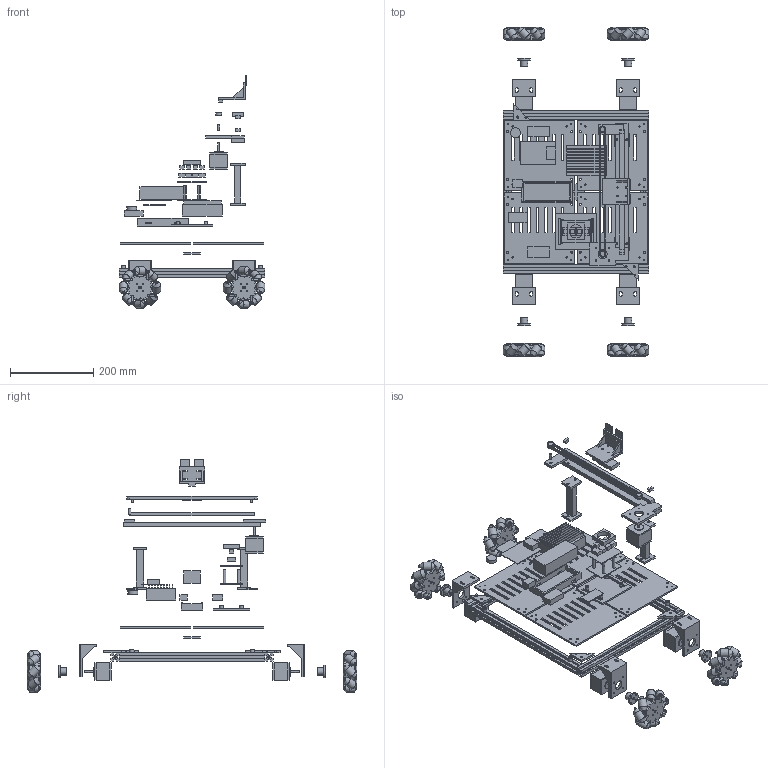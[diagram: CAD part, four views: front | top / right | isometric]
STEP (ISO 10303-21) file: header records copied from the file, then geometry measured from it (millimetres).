
FILE_DESCRIPTION(('Open CASCADE Model'),'2;1');
FILE_NAME('Open CASCADE Shape Model','2026-09-04T19:26:08',('Author'),( 'Open CASCADE'),'Open CASCADE STEP processor 7.9','Open CASCADE 7.9' ,'Unknown');
FILE_SCHEMA(('AUTOMOTIVE_DESIGN { 1 0 10303 214 1 1 1 1 }'));
Length unit declared in the file: millimetre
Products named in the file (251): Mecanum_presence_rover_CONCEPT_exploded; 2020_side_-1; 2020_cross_-1; 2020_side_1; 2020_cross_1; rear_right_motor; motor_laminations; front_flange; rear_flange; 5mm_D_shaft; rear_right_mount; rear_right_hub_interface_TBD; rear_right_mecanum; wheel_core; wheel_side_plate; free_roller_1; roller_axle_1; roller_support_1_-1; roller_support_1_1; free_roller_2; roller_axle_2; roller_support_2_-1; roller_support_2_1; free_roller_3; roller_axle_3; roller_support_3_-1; roller_support_3_1; free_roller_4; roller_axle_4; roller_support_4_-1; roller_support_4_1; free_roller_5; roller_axle_5; roller_support_5_-1; roller_support_5_1; free_roller_6; roller_axle_6; roller_support_6_-1; roller_support_6_1; free_roller_7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
Assembly tree (250 placements, depth 3):
  Mecanum_presence_rover_CONCEPT_exploded
    2020_side_-1
    2020_cross_-1
    2020_side_1
    2020_cross_1
    rear_right_motor
      motor_laminations
      front_flange
      rear_flange
      5mm_D_shaft
    rear_right_mount
    rear_right_hub_interface_TBD
    rear_right_mecanum
      wheel_core
      wheel_side_plate
      wheel_side_plate
      free_roller_1
      roller_axle_1
      roller_support_1_-1
      roller_support_1_1
      free_roller_2
      roller_axle_2
      roller_support_2_-1
      roller_support_2_1
      free_roller_3
      roller_axle_3
      roller_support_3_-1
      roller_support_3_1
      free_roller_4
      roller_axle_4
      roller_support_4_-1
      roller_support_4_1
      free_roller_5
      roller_axle_5
      roller_support_5_-1
      roller_support_5_1
      free_roller_6
      roller_axle_6
      roller_support_6_-1
      roller_support_6_1
      free_roller_7
      roller_axle_7
      roller_support_7_-1
      roller_support_7_1
      free_roller_8
      roller_axle_8
      roller_support_8_-1
      roller_support_8_1
    rear_left_motor
      motor_laminations
      front_flange
      rear_flange
      5mm_D_shaft
    rear_left_mount
    rear_left_hub_interface_TBD
    rear_left_mecanum
      wheel_core
      wheel_side_plate
      wheel_side_plate
      free_roller_1
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Bounding box: 350 x 791.87 x 559.5 mm (x, y, z)
Volume: 2740383.9 mm3; surface area: 1082493.3 mm2
Topology: 241 solids, 241 shells, 1679 faces, 3442 edges, 2270 vertices
Faces by surface type: plane 1174, cylinder 441, cone 64
Full cylindrical faces by diameter (mm): 3.2 x124, 4 x32, 4.4 x32, 5 x73, 5.2 x36, 6 x17, 6.4 x1, 8 x4, 10 x4, 12.74 x2, 16 x4, 18 x4, 20 x32, 22 x5, 22.2 x5, 24 x1, 30 x4, 32 x1, 56 x4, 62 x8
Entity records: 98338 total; most frequent: CARTESIAN_POINT 18030, DIRECTION 13850, LINE 7218, VECTOR 7218, ORIENTED_EDGE 6884, PCURVE 6884, DEFINITIONAL_REPRESENTATION 6884, EDGE_CURVE 3442
